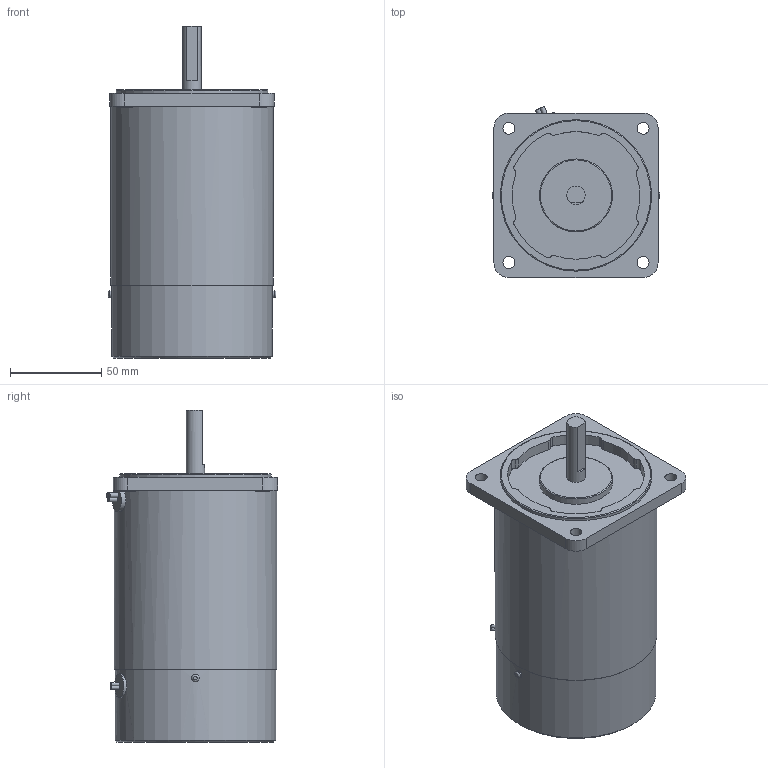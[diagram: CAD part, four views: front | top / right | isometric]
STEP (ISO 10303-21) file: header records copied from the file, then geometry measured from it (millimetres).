
FILE_DESCRIPTION((''),'2;1');
FILE_NAME('E:\2공장-도면\3D\표준형 3D(민규)\step file\B\K9RS40Nㅁ-B.stp','2014-11-13T17:57:22',('AHN'),(''),'Autodesk Inventor 2012','Autodesk Inventor 2012','');
FILE_SCHEMA(('CONFIG_CONTROL_DESIGN'));
Length unit declared in the file: millimetre
Products named in the file (1): K9ㅁS40Nㅁ-Bㄱ
Bounding box: 92 x 93.75 x 182 mm (x, y, z)
Volume: 902652 mm3; surface area: 61050.6 mm2
Topology: 1 solids, 1 shells, 86 faces, 196 edges, 122 vertices
Faces by surface type: cylinder 53, plane 28, torus 2, bspline 2, cone 1
Full cylindrical faces by diameter (mm): 1.8 x2, 4 x2, 6.5 x4, 8 x4, 10 x1, 13 x1, 40 x1, 83 x1, 88 x1, 89 x1
Entity records: 2590 total; most frequent: CARTESIAN_POINT 658, DIRECTION 441, ORIENTED_EDGE 334, AXIS2_PLACEMENT_3D 193, EDGE_CURVE 167, EDGE_LOOP 130, VERTEX_POINT 115, CIRCLE 108
